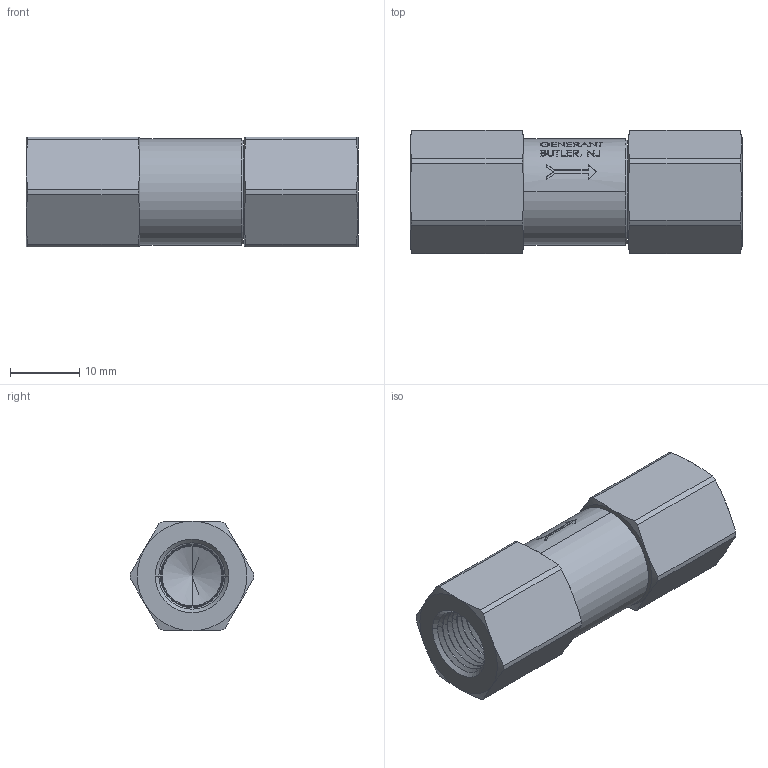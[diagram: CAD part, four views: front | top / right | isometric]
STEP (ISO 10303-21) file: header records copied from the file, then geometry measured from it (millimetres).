
FILE_DESCRIPTION (( 'STEP AP203' ), '1' );
FILE_NAME ('PCV-2F.STEP', '2013-04-26T13:05:03', ( '' ), ( '' ), 'SwSTEP 2.0', 'SolidWorks 2011', '' );
FILE_SCHEMA (( 'CONFIG_CONTROL_DESIGN' ));
Length unit declared in the file: inch
Products named in the file (2): PCV-2F; Part1^PCV-2F
Assembly tree (1 placements, depth 2):
  PCV-2F
    Part1^PCV-2F
Bounding box: 48.11 x 17.91 x 15.88 mm (x, y, z)
Volume: 8483.1 mm3; surface area: 4087.1 mm2
Topology: 1 solids, 1 shells, 402 faces, 984 edges, 608 vertices
Faces by surface type: plane 147, cone 142, bspline 70, cylinder 43
Entity records: 15316 total; most frequent: CARTESIAN_POINT 6232, ORIENTED_EDGE 1960, DIRECTION 1670, EDGE_CURVE 980, AXIS2_PLACEMENT_3D 640, VERTEX_POINT 608, EDGE_LOOP 430, ADVANCED_FACE 402
